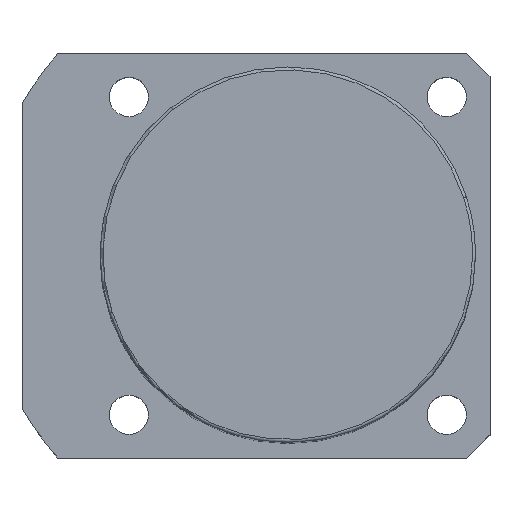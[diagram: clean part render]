
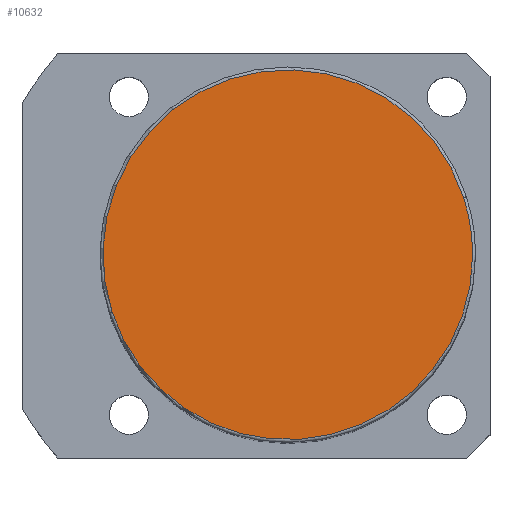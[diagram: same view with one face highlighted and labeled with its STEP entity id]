
A CAD part, top view. The second image highlights one B-rep face of the part: STEP entity #10632.
In plain terms, the highlighted planar face has unit normal (0, 0, 1).
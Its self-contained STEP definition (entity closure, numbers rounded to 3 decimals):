
#10565=CARTESIAN_POINT('',(30.434,9.889,126.0));
#10566=VERTEX_POINT('',#10565);
#10584=CARTESIAN_POINT('',(-30.434,-9.889,126.0));
#10585=VERTEX_POINT('',#10584);
#10593=CARTESIAN_POINT('',(0.0,0.0,126.0));
#10594=DIRECTION('',(0.0,0.0,1.0));
#10595=DIRECTION('',(1.0,0.0,0.0));
#10596=AXIS2_PLACEMENT_3D('',#10593,#10594,#10595);
#10597=CIRCLE('',#10596,32.0);
#10598=EDGE_CURVE('no 4883',#10566,#10585,#10597,.T.);
#10608=CARTESIAN_POINT('',(32.0,0.0,126.0));
#10609=VERTEX_POINT('',#10608);
#10610=CARTESIAN_POINT('',(0.0,0.0,126.0));
#10611=DIRECTION('',(0.0,0.0,1.0));
#10612=DIRECTION('',(1.0,0.0,0.0));
#10613=AXIS2_PLACEMENT_3D('',#10610,#10611,#10612);
#10614=CIRCLE('',#10613,32.0);
#10615=EDGE_CURVE('no 4892',#10609,#10566,#10614,.T.);
#10616=ORIENTED_EDGE('',*,*,#10615,.T.);
#10617=ORIENTED_EDGE('',*,*,#10598,.T.);
#10618=CARTESIAN_POINT('',(0.0,0.0,126.0));
#10619=DIRECTION('',(0.0,0.0,1.0));
#10620=DIRECTION('',(1.0,0.0,0.0));
#10621=AXIS2_PLACEMENT_3D('',#10618,#10619,#10620);
#10622=CIRCLE('',#10621,32.0);
#10623=EDGE_CURVE('no 4898',#10585,#10609,#10622,.T.);
#10624=ORIENTED_EDGE('',*,*,#10623,.T.);
#10625=EDGE_LOOP('',(#10616,#10617,#10624));
#10626=FACE_OUTER_BOUND('',#10625,.T.);
#10627=CARTESIAN_POINT('',(0.0,0.0,126.0));
#10628=DIRECTION('',(0.0,0.0,1.0));
#10629=DIRECTION('',(1.0,0.0,0.0));
#10630=AXIS2_PLACEMENT_3D('',#10627,#10628,#10629);
#10631=PLANE('',#10630);
#10632=ADVANCED_FACE('no 4885',(#10626),#10631,.T.);
